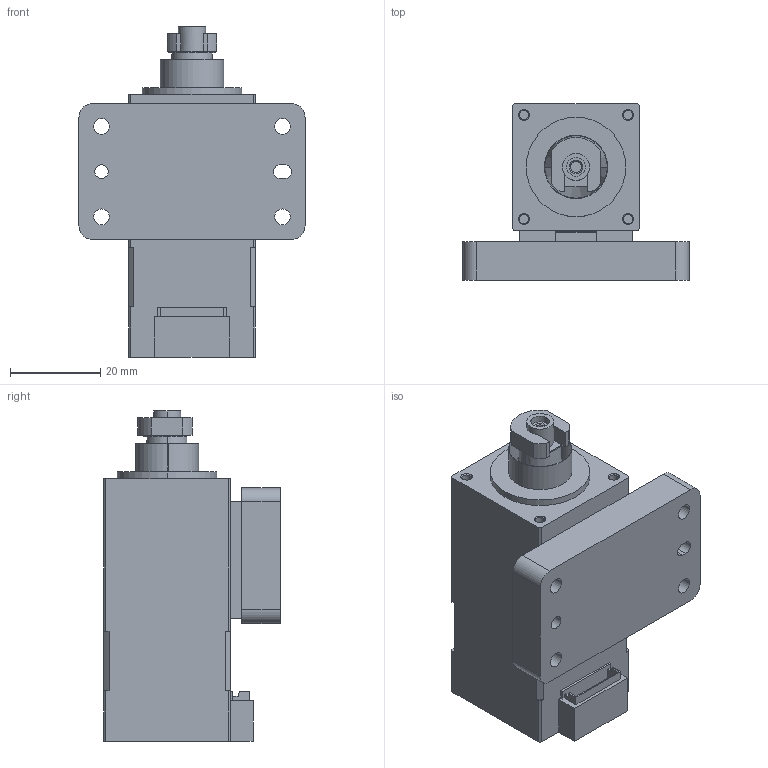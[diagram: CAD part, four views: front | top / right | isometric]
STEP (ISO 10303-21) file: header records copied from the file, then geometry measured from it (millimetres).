
FILE_DESCRIPTION (( 'STEP AP203' ), '1' );
FILE_NAME ('DR28R2.5BC03-P2AKD-P.step', '2018-05-30T10:30:40', ( 'U41034' ), ( 'Hewlett-Packard Company' ), 'SwSTEP 2.0', 'SolidWorks 2017', '' );
FILE_SCHEMA (( 'CONFIG_CONTROL_DESIGN' ));
Length unit declared in the file: millimetre
Products named in the file (3): DR28R2.5BC03-P2AKD-P_BASE; DR28R2.5BC03-P2AKD-P_BallScrew; DR28R2.5BC03-P2AKD-P
Assembly tree (2 placements, depth 2):
  DR28R2.5BC03-P2AKD-P
    DR28R2.5BC03-P2AKD-P_BASE
    DR28R2.5BC03-P2AKD-P_BallScrew
Bounding box: 50 x 39 x 73 mm (x, y, z)
Volume: 58378.9 mm3; surface area: 19549.2 mm2
Topology: 2 solids, 2 shells, 154 faces, 394 edges, 256 vertices
Faces by surface type: plane 81, cylinder 61, cone 12
Entity records: 5063 total; most frequent: CARTESIAN_POINT 878, DIRECTION 840, ORIENTED_EDGE 788, EDGE_CURVE 394, AXIS2_PLACEMENT_3D 292, LINE 256, VERTEX_POINT 256, VECTOR 256
